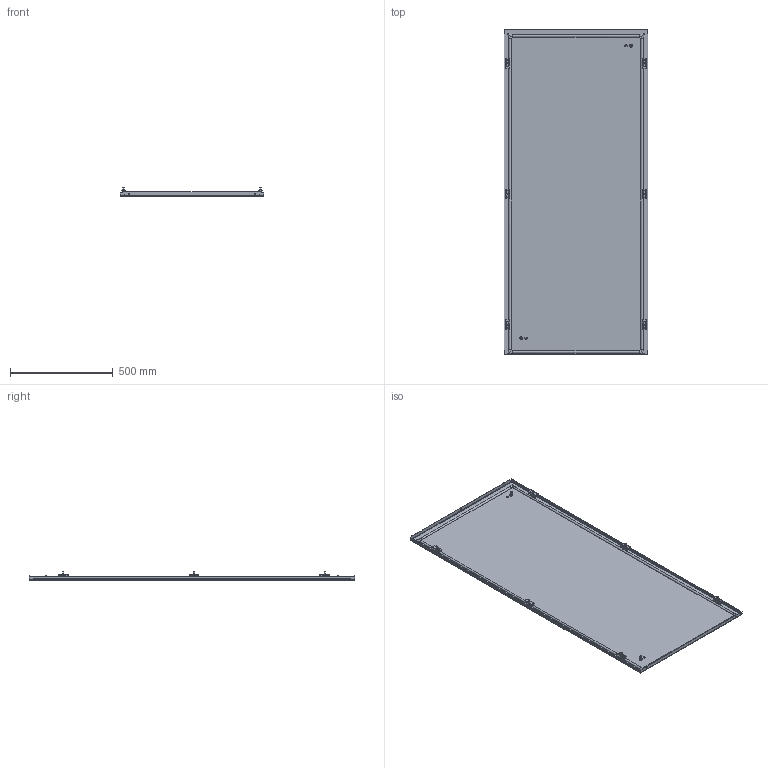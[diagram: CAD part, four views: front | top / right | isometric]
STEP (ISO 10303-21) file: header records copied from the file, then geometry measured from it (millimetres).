
FILE_DESCRIPTION (( 'STEP AP203' ), '1' );
FILE_NAME ('p2c167.STEP', '2016-06-23T17:45:27', ( '' ), ( '' ), 'SwSTEP 2.0', 'SolidWorks 2014', '' );
FILE_SCHEMA (( 'CONFIG_CONTROL_DESIGN' ));
Length unit declared in the file: millimetre
Products named in the file (12): 87931527_87931527; 87931368_SLEEVE; 89124255_89124255; p2c167; 89124408_89124408; 89133044_2000x600; 60100041_60100041; 89133035; 89124256_89124256; 89133053_87934847; 89133024; 89133232_Cometic Threads
Assembly tree (17 placements, depth 5):
  p2c167
    89133024
      89133035
        89133044_2000x600
        60100041_60100041  x2
          87931527_87931527
          87931368_SLEEVE
      89133053_87934847
    89124255_89124255  x6
      89124256_89124256
      89124408_89124408
      89133232_Cometic Threads
Bounding box: 698 x 1583 x 40.57 mm (x, y, z)
Volume: 1953662.5 mm3; surface area: 2576403.1 mm2
Topology: 24 solids, 24 shells, 1174 faces, 2872 edges, 1768 vertices
Faces by surface type: cylinder 506, plane 466, cone 96, torus 84, bspline 22
Entity records: 15650 total; most frequent: CARTESIAN_POINT 3930, DIRECTION 2150, ORIENTED_EDGE 2126, EDGE_CURVE 1063, AXIS2_PLACEMENT_3D 752, VERTEX_POINT 650, VECTOR 646, LINE 646
